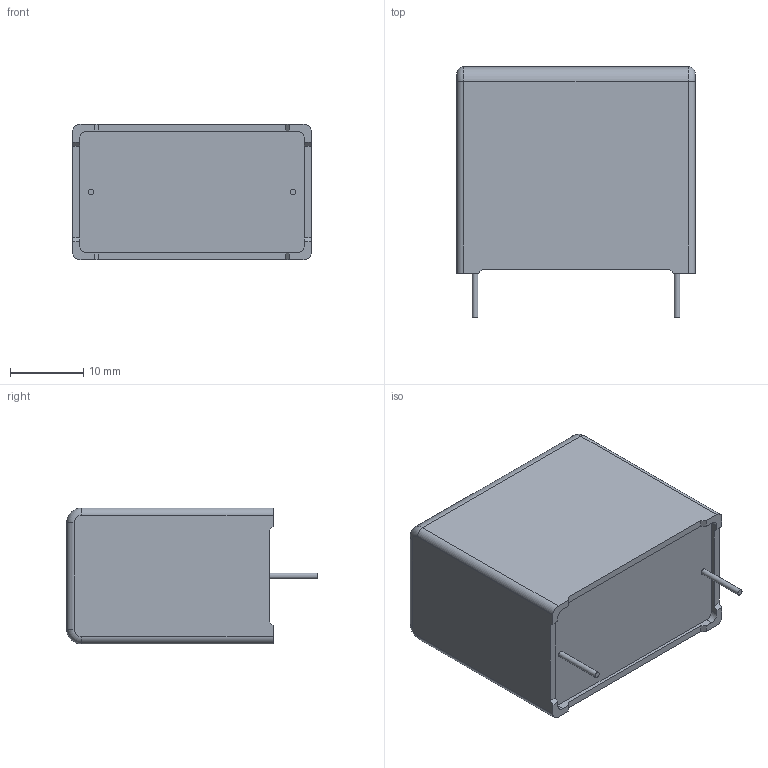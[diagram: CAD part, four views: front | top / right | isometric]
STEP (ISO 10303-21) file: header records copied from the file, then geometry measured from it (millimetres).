
FILE_DESCRIPTION (( 'STEP AP203' ), '1' );
FILE_NAME ('MKP1847H52035+K2.step', '2018-01-17T10:50:43', ( 'work' ), ( 'Hewlett-Packard Company' ), 'SwSTEP 2.0', 'SolidWorks 2017', '' );
FILE_SCHEMA (( 'CONFIG_CONTROL_DESIGN' ));
Length unit declared in the file: millimetre
Products named in the file (1): MKP1847H52035+K2
Bounding box: 32.5 x 34.1 x 18.5 mm (x, y, z)
Volume: 16271.1 mm3; surface area: 3997.1 mm2
Topology: 1 solids, 1 shells, 114 faces, 303 edges, 200 vertices
Faces by surface type: plane 80, bspline 16, cylinder 14, torus 4
Full cylindrical faces by diameter (mm): 0.8 x2
Entity records: 4252 total; most frequent: CARTESIAN_POINT 1436, ORIENTED_EDGE 598, DIRECTION 497, EDGE_CURVE 299, VECTOR 235, LINE 235, VERTEX_POINT 198, AXIS2_PLACEMENT_3D 131
